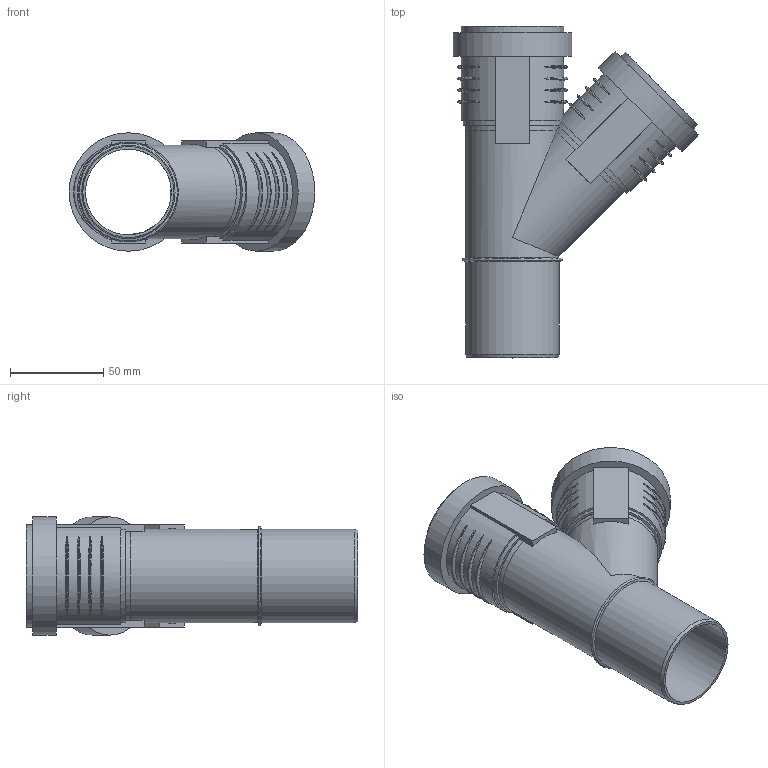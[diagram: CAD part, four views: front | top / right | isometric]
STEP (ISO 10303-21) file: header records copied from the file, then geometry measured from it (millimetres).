
FILE_DESCRIPTION(/* description */ (''),/* implementation_level */ '2;1');
FILE_NAME(/* name */ 'Z:\Geberit\Export\NewStep\390232.stp',/* time_stamp */ '2014-04-02T08:10:26+02:00',/* author */ ('ML'),/* organization */ (''),/* preprocessor_version */ 'ST-DEVELOPER v15.2',/* originating_system */ 'Autodesk Inventor 2014',/* authorisation */ '');
FILE_SCHEMA (('AUTOMOTIVE_DESIGN { 1 0 10303 214 3 1 1 }'));
Length unit declared in the file: millimetre
Products named in the file (4): 861338; 861401; 861401_1; 390232
Bounding box: 132.08 x 178.4 x 63.7 mm (x, y, z)
Volume: 93926 mm3; surface area: 94806 mm2
Topology: 3 solids, 3 shells, 124 faces, 308 edges, 215 vertices
Faces by surface type: torus 50, plane 37, cylinder 32, cone 5
Full cylindrical faces by diameter (mm): 46.15 x4, 50.15 x4, 51 x4, 55 x2, 59.7 x2, 63.7 x2
Entity records: 4871 total; most frequent: CARTESIAN_POINT 1929, ORIENTED_EDGE 544, DIRECTION 539, EDGE_CURVE 272, AXIS2_PLACEMENT_3D 233, VERTEX_POINT 205, EDGE_LOOP 183, STYLED_ITEM 125
